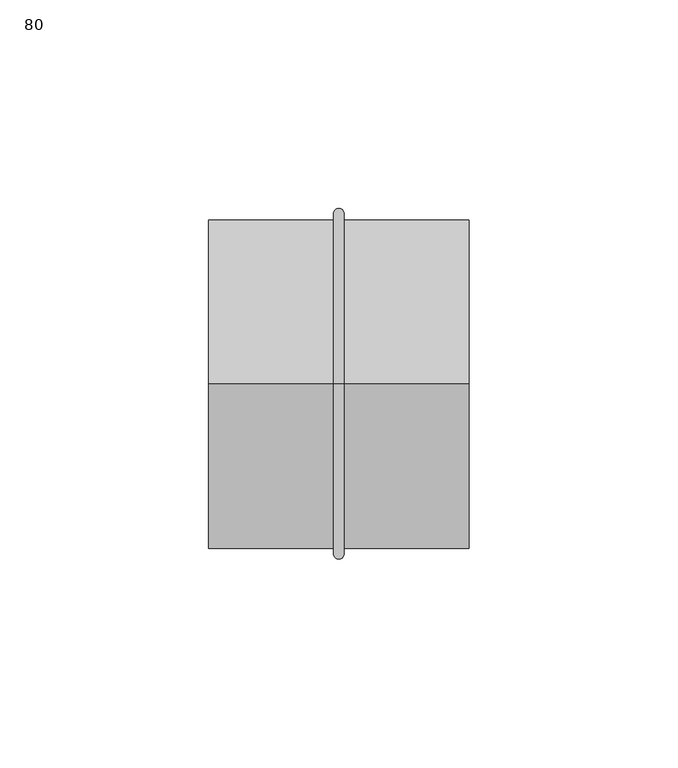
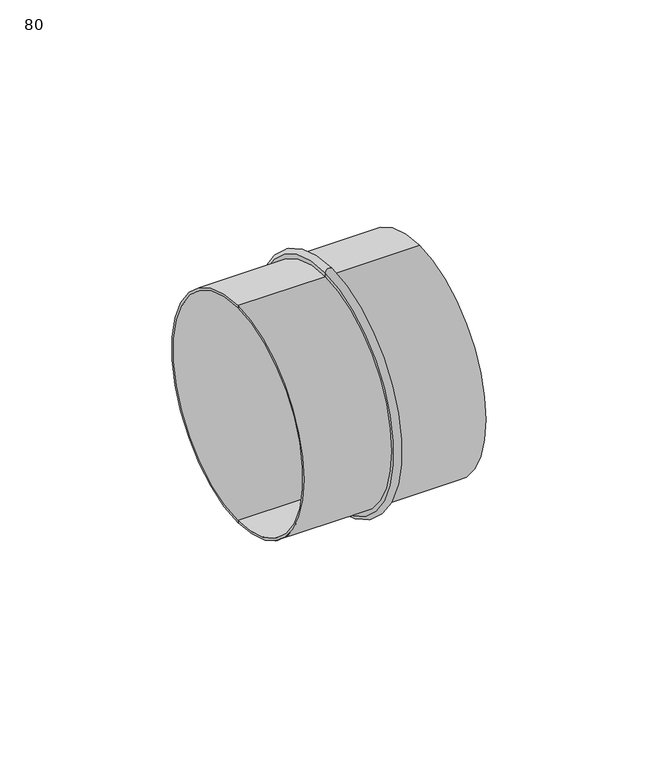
"""IFC4 building model written with IfcOpenShell, lengths in millimetres: duct fitting geometry, VE_Coupling_Round_MEPcontent_Renson_Easyflex_BE-EN_CP Shared : 80."""

from ifc_helpers import new_model, si_unit, point, frame, origin, place, context, project, spatial, polyline, circle_curve, ellipse_curve, trimmed, source, transform, mapped, element, save
from ifc_brep_helpers import plane_surface, cylinder_surface, revolved_surface, advanced_brep


def duct_fitting_80_1f0880ae(model_context):
    return source(origin(), model_context, "Body", "AdvancedBrep", [
        advanced_brep(
        [(31.25, 0.0, -38.7), (31.25, 0.0, 38.7), (-31.25, 0.0, 38.7), (-31.25, 0.0, -38.7), (-31.25, 0.0, -39.5), (-31.25, 0.0, 39.5), (-1.25, 0.0, 39.5), (-1.25, 0.0, -39.5), (1.25, 0.0, -39.5), (1.25, 0.0, 39.5), (31.25, 0.0, 39.5), (31.25, 0.0, -39.5), (1.25, 0.0, -41.0), (1.25, 0.0, 41.0), (-1.25, 0.0, -41.0), (-1.25, 0.0, 41.0)],
        [
            (0, 1, circle_curve(frame((31.25, 0.0, 0.0), z_axis=(1.0, 0.0, 0.0), x_axis=(0.0, 0.0, 1.0)), 38.7)),
            (1, 2),
            (2, 3, circle_curve(frame((-31.25, 0.0, 0.0), z_axis=(-1.0, 0.0, 0.0), x_axis=(0.0, 0.0, 1.0)), 38.7)),
            (3, 0),
            (1, 0, circle_curve(frame((31.25, 0.0, 0.0), z_axis=(1.0, 0.0, 0.0), x_axis=(0.0, 0.0, 1.0)), 38.7)),
            (3, 2, circle_curve(frame((-31.25, 0.0, 0.0), z_axis=(-1.0, 0.0, 0.0), x_axis=(0.0, 0.0, 1.0)), 38.7)),
            (4, 5, circle_curve(frame((-31.25, 0.0, 0.0), z_axis=(1.0, 0.0, 0.0), x_axis=(0.0, 0.0, 1.0)), 39.5)),
            (5, 6),
            (6, 7, circle_curve(frame((-1.25, 0.0, 0.0), z_axis=(-1.0, 0.0, 0.0), x_axis=(0.0, 0.0, 1.0)), 39.5)),
            (7, 4),
            (5, 4, circle_curve(frame((-31.25, 0.0, 0.0), z_axis=(1.0, 0.0, 0.0), x_axis=(0.0, 0.0, 1.0)), 39.5)),
            (7, 6, circle_curve(frame((-1.25, 0.0, 0.0), z_axis=(-1.0, 0.0, 0.0), x_axis=(0.0, 0.0, 1.0)), 39.5)),
            (8, 9, circle_curve(frame((1.25, 0.0, 0.0), z_axis=(1.0, 0.0, 0.0), x_axis=(0.0, 0.0, 1.0)), 39.5)),
            (9, 10),
            (10, 11, circle_curve(frame((31.25, 0.0, 0.0), z_axis=(-1.0, 0.0, 0.0), x_axis=(0.0, 0.0, 1.0)), 39.5)),
            (11, 8),
            (9, 8, circle_curve(frame((1.25, 0.0, 0.0), z_axis=(1.0, 0.0, 0.0), x_axis=(0.0, 0.0, 1.0)), 39.5)),
            (11, 10, circle_curve(frame((31.25, 0.0, 0.0), z_axis=(-1.0, 0.0, 0.0), x_axis=(0.0, 0.0, 1.0)), 39.5)),
            (2, 5),
            (4, 3),
            (10, 1),
            (0, 11),
            (12, 13, circle_curve(frame((1.25, 0.0, 0.0), z_axis=(1.0, 0.0, 0.0), x_axis=(0.0, 0.0, 1.0)), 41.0)),
            (13, 9),
            (8, 12),
            (13, 12, circle_curve(frame((1.25, 0.0, 0.0), z_axis=(1.0, 0.0, 0.0), x_axis=(0.0, 0.0, 1.0)), 41.0)),
            (14, 15, circle_curve(frame((-1.25, 0.0, 0.0), z_axis=(1.0, 0.0, 0.0), x_axis=(0.0, 0.0, 1.0)), 41.0)),
            (15, 13, circle_curve(frame((0.0, 0.0, 41.0), z_axis=(0.0, 1.0, 0.0), x_axis=(1.0, 0.0, 0.0)), 1.25)),
            (12, 14, circle_curve(frame((0.0, 0.0, -41.0), z_axis=(0.0, 1.0, 0.0), x_axis=(1.0, 0.0, 0.0)), 1.25)),
            (15, 14, circle_curve(frame((-1.25, 0.0, 0.0), z_axis=(1.0, 0.0, 0.0), x_axis=(0.0, 0.0, 1.0)), 41.0)),
            (6, 15),
            (14, 7),
        ],
        [
            revolved_surface(polyline([(-31.25, 0.0, 38.7), (31.25, 0.0, 38.7)]), (71.25, 0.0, 0.0), (-1.0, 0.0, 0.0)),
            cylinder_surface(frame((71.25, 0.0, 0.0), z_axis=(-1.0, 0.0, 0.0), x_axis=(0.0, 0.0, 1.0)), 39.5),
            plane_surface(frame((-31.25, 0.0, 0.0), z_axis=(-1.0, 0.0, 0.0), x_axis=(0.0, 0.0, 1.0))),
            plane_surface(frame((31.25, 0.0, 0.0), z_axis=(1.0, 0.0, 0.0), x_axis=(0.0, 0.0, 1.0))),
            plane_surface(frame((1.25, 0.0, 0.0), z_axis=(1.0, 0.0, 0.0), x_axis=(0.0, 0.0, 1.0))),
            revolved_surface(trimmed(ellipse_curve(frame((0.0, 0.0, 41.0), z_axis=(0.0, -1.0, 0.0), x_axis=(1.0, 0.0, 0.0)), 1.25, 1.25), [point((1.25, 0.0, 41.0))], [point((-1.25, 0.0, 41.0))], True, "CARTESIAN"), (71.25, 0.0, 0.0), (-1.0, 0.0, 0.0)),
            plane_surface(frame((-1.25, 0.0, 0.0), z_axis=(-1.0, 0.0, 0.0), x_axis=(0.0, 0.0, 1.0))),
        ],
        [
            (0, [[1, 2, 3, 4]]),
            (0, [[5, -4, 6, -2]]),
            (1, [[7, 8, 9, 10]]),
            (1, [[11, -10, 12, -8]]),
            (1, [[13, 14, 15, 16]]),
            (1, [[17, -16, 18, -14]]),
            (2, [[-3, 19, -7, 20]]),
            (2, [[-6, -20, -11, -19]]),
            (3, [[-15, 21, -1, 22]]),
            (3, [[-18, -22, -5, -21]]),
            (4, [[23, 24, -13, 25]]),
            (4, [[26, -25, -17, -24]]),
            (5, [[27, 28, -23, 29]]),
            (5, [[30, -29, -26, -28]]),
            (6, [[-9, 31, -27, 32]]),
            (6, [[-12, -32, -30, -31]]),
        ],
    ),
    ])


if __name__ == "__main__":
    model = new_model("IFC4")
    model_context = context("Model", 3, world=origin())
    ifc_project = project(units=[si_unit("LENGTHUNIT", "METRE", prefix="MILLI")], contexts=[model_context])
    site = spatial("IfcSite", under=ifc_project)
    building = spatial("IfcBuilding", under=site)
    placement = place(None, origin())
    duct_fitting_80_shape = duct_fitting_80_1f0880ae(model_context)
    element("IfcDuctFitting", 1, ObjectType="VE_Coupling_Round_MEPcontent_Renson_Easyflex_BE-EN_CP Shared : 80", at=placement, inside=building, context=model_context, shape_type="MappedRepresentation", body=[
        mapped(duct_fitting_80_shape, transform((0.0, 0.0, 0.0), x_axis=(1.0, 0.0, 0.0), y_axis=(0.0, 1.0, 0.0), z_axis=(0.0, 0.0, 1.0))),
    ])
    save(model, "model.ifc")
